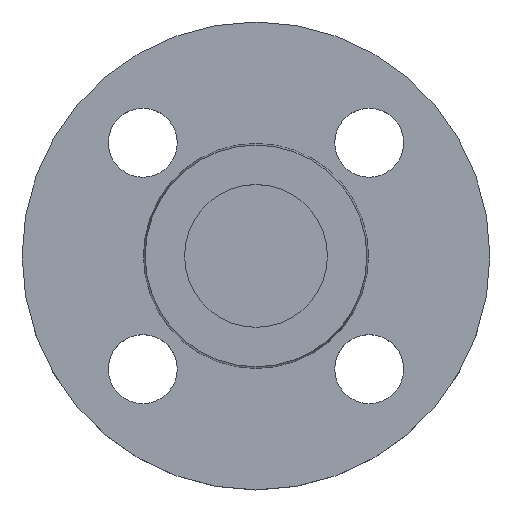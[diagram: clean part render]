
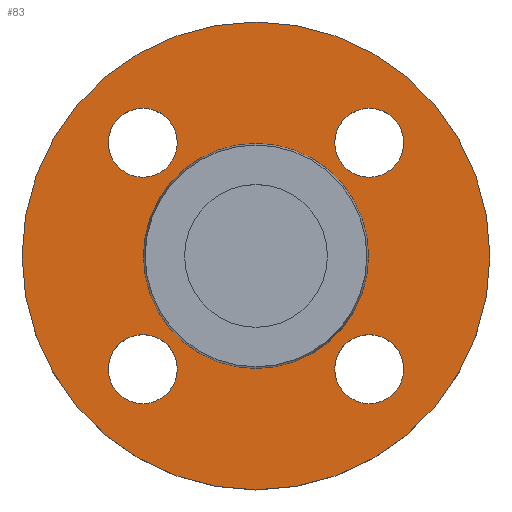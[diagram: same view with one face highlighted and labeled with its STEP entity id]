
A CAD part, top view. The second image highlights one B-rep face of the part: STEP entity #83.
In plain terms, the highlighted planar face has unit normal (0, 0, 1).
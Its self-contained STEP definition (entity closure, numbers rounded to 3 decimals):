
#11 = AXIS2_PLACEMENT_3D ( 'NONE', #355, #194, #196 ) ;
#18 = CIRCLE ( 'NONE', #11, 7. ) ;
#34 = AXIS2_PLACEMENT_3D ( 'NONE', #245, #246, #248 ) ;
#36 = CIRCLE ( 'NONE', #34, 7. ) ;
#51 = EDGE_CURVE ( 'NONE', #397, #474, #218, .T. ) ;
#53 = AXIS2_PLACEMENT_3D ( 'NONE', #126, #119, #118 ) ;
#75 = EDGE_CURVE ( 'NONE', #568, #572, #268, .T. ) ;
#83 = ADVANCED_FACE ( 'NONE', ( #619, #620, #621, #622, #624, #625 ), #626, .T. ) ;
#85 = AXIS2_PLACEMENT_3D ( 'NONE', #226, #227, #228 ) ;
#88 = CIRCLE ( 'NONE', #85, 7. ) ;
#118 = DIRECTION ( 'NONE',  ( 1., 0., 0. ) ) ;
#119 = DIRECTION ( 'NONE',  ( 0., 0., -1. ) ) ;
#121 = AXIS2_PLACEMENT_3D ( 'NONE', #323, #326, #328 ) ;
#123 = AXIS2_PLACEMENT_3D ( 'NONE', #309, #310, #311 ) ;
#126 = CARTESIAN_POINT ( 'NONE',  ( -22.981, 22.981, -2. ) ) ;
#127 = CIRCLE ( 'NONE', #123, 22.853 ) ;
#155 = AXIS2_PLACEMENT_3D ( 'NONE', #628, #629, #630 ) ;
#164 = CARTESIAN_POINT ( 'NONE',  ( -29.981, -22.981, -2. ) ) ;
#168 = CARTESIAN_POINT ( 'NONE',  ( 29.981, 22.981, -2. ) ) ;
#170 = AXIS2_PLACEMENT_3D ( 'NONE', #713, #714, #715 ) ;
#171 = CIRCLE ( 'NONE', #170, 47.5 ) ;
#174 = CIRCLE ( 'NONE', #121, 7. ) ;
#178 = CARTESIAN_POINT ( 'NONE',  ( -15.981, -22.981, -2. ) ) ;
#194 = DIRECTION ( 'NONE',  ( 0., 0., -1. ) ) ;
#195 = AXIS2_PLACEMENT_3D ( 'NONE', #616, #617, #618 ) ;
#196 = DIRECTION ( 'NONE',  ( 1., 0., 0. ) ) ;
#215 = AXIS2_PLACEMENT_3D ( 'NONE', #591, #603, #604 ) ;
#217 = EDGE_CURVE ( 'NONE', #523, #550, #312, .T. ) ;
#218 = CIRCLE ( 'NONE', #215, 47.5 ) ;
#226 = CARTESIAN_POINT ( 'NONE',  ( -22.981, 22.981, -2. ) ) ;
#227 = DIRECTION ( 'NONE',  ( 0., 0., -1. ) ) ;
#228 = DIRECTION ( 'NONE',  ( 1., 0., 0. ) ) ;
#241 = AXIS2_PLACEMENT_3D ( 'NONE', #699, #700, #701 ) ;
#244 = EDGE_CURVE ( 'NONE', #498, #508, #265, .T. ) ;
#245 = CARTESIAN_POINT ( 'NONE',  ( 22.981, -22.981, -2. ) ) ;
#246 = DIRECTION ( 'NONE',  ( 0., 0., -1. ) ) ;
#248 = DIRECTION ( 'NONE',  ( 1., 0., 0. ) ) ;
#265 = CIRCLE ( 'NONE', #241, 7. ) ;
#268 = CIRCLE ( 'NONE', #195, 22.853 ) ;
#287 = EDGE_CURVE ( 'NONE', #474, #397, #171, .T. ) ;
#298 = CARTESIAN_POINT ( 'NONE',  ( -47.5, 0., -2. ) ) ;
#306 = AXIS2_PLACEMENT_3D ( 'NONE', #674, #679, #681 ) ;
#309 = CARTESIAN_POINT ( 'NONE',  ( 0., 0., -2. ) ) ;
#310 = DIRECTION ( 'NONE',  ( 0., 0., -1. ) ) ;
#311 = DIRECTION ( 'NONE',  ( -1., 0., 0. ) ) ;
#312 = CIRCLE ( 'NONE', #306, 7. ) ;
#314 = CARTESIAN_POINT ( 'NONE',  ( -15.981, 22.981, -2. ) ) ;
#323 = CARTESIAN_POINT ( 'NONE',  ( 22.981, 22.981, -2. ) ) ;
#324 = AXIS2_PLACEMENT_3D ( 'NONE', #337, #338, #340 ) ;
#325 = CIRCLE ( 'NONE', #324, 7. ) ;
#326 = DIRECTION ( 'NONE',  ( 0., 0., -1. ) ) ;
#328 = DIRECTION ( 'NONE',  ( 1., 0., 0. ) ) ;
#333 = CIRCLE ( 'NONE', #53, 7. ) ;
#335 = CARTESIAN_POINT ( 'NONE',  ( 47.5, 0., -2. ) ) ;
#337 = CARTESIAN_POINT ( 'NONE',  ( 22.981, 22.981, -2. ) ) ;
#338 = DIRECTION ( 'NONE',  ( 0., 0., -1. ) ) ;
#340 = DIRECTION ( 'NONE',  ( 1., 0., 0. ) ) ;
#350 = CARTESIAN_POINT ( 'NONE',  ( -22.853, 0., -2. ) ) ;
#352 = EDGE_CURVE ( 'NONE', #556, #411, #88, .T. ) ;
#355 = CARTESIAN_POINT ( 'NONE',  ( -22.981, -22.981, -2. ) ) ;
#357 = CARTESIAN_POINT ( 'NONE',  ( 15.981, -22.981, -2. ) ) ;
#364 = CARTESIAN_POINT ( 'NONE',  ( -29.981, 22.981, -2. ) ) ;
#367 = CARTESIAN_POINT ( 'NONE',  ( 15.981, 22.981, -2. ) ) ;
#368 = CARTESIAN_POINT ( 'NONE',  ( 29.981, -22.981, -2. ) ) ;
#374 = CARTESIAN_POINT ( 'NONE',  ( 22.853, 0., -2. ) ) ;
#375 = EDGE_CURVE ( 'NONE', #550, #523, #36, .T. ) ;
#397 = VERTEX_POINT ( 'NONE', #298 ) ;
#408 = EDGE_CURVE ( 'NONE', #572, #568, #127, .T. ) ;
#411 = VERTEX_POINT ( 'NONE', #314 ) ;
#422 = EDGE_LOOP ( 'NONE', ( #473, #476 ) ) ;
#424 = EDGE_LOOP ( 'NONE', ( #469, #470 ) ) ;
#432 = EDGE_CURVE ( 'NONE', #559, #531, #174, .T. ) ;
#457 = EDGE_LOOP ( 'NONE', ( #477, #478 ) ) ;
#460 = EDGE_LOOP ( 'NONE', ( #466, #467 ) ) ;
#464 = ORIENTED_EDGE ( 'NONE', *, *, #217, .T. ) ;
#465 = ORIENTED_EDGE ( 'NONE', *, *, #375, .T. ) ;
#466 = ORIENTED_EDGE ( 'NONE', *, *, #576, .T. ) ;
#467 = ORIENTED_EDGE ( 'NONE', *, *, #244, .T. ) ;
#469 = ORIENTED_EDGE ( 'NONE', *, *, #627, .T. ) ;
#470 = ORIENTED_EDGE ( 'NONE', *, *, #352, .T. ) ;
#471 = ORIENTED_EDGE ( 'NONE', *, *, #475, .T. ) ;
#472 = ORIENTED_EDGE ( 'NONE', *, *, #432, .T. ) ;
#473 = ORIENTED_EDGE ( 'NONE', *, *, #408, .T. ) ;
#474 = VERTEX_POINT ( 'NONE', #335 ) ;
#475 = EDGE_CURVE ( 'NONE', #531, #559, #325, .T. ) ;
#476 = ORIENTED_EDGE ( 'NONE', *, *, #75, .T. ) ;
#477 = ORIENTED_EDGE ( 'NONE', *, *, #287, .F. ) ;
#478 = ORIENTED_EDGE ( 'NONE', *, *, #51, .F. ) ;
#498 = VERTEX_POINT ( 'NONE', #164 ) ;
#504 = EDGE_LOOP ( 'NONE', ( #471, #472 ) ) ;
#508 = VERTEX_POINT ( 'NONE', #178 ) ;
#523 = VERTEX_POINT ( 'NONE', #368 ) ;
#531 = VERTEX_POINT ( 'NONE', #168 ) ;
#550 = VERTEX_POINT ( 'NONE', #357 ) ;
#556 = VERTEX_POINT ( 'NONE', #364 ) ;
#559 = VERTEX_POINT ( 'NONE', #367 ) ;
#568 = VERTEX_POINT ( 'NONE', #374 ) ;
#569 = EDGE_LOOP ( 'NONE', ( #464, #465 ) ) ;
#572 = VERTEX_POINT ( 'NONE', #350 ) ;
#576 = EDGE_CURVE ( 'NONE', #508, #498, #18, .T. ) ;
#591 = CARTESIAN_POINT ( 'NONE',  ( 0., 0., -2. ) ) ;
#603 = DIRECTION ( 'NONE',  ( 0., 0., -1. ) ) ;
#604 = DIRECTION ( 'NONE',  ( -1., 0., 0. ) ) ;
#616 = CARTESIAN_POINT ( 'NONE',  ( 0., 0., -2. ) ) ;
#617 = DIRECTION ( 'NONE',  ( 0., 0., -1. ) ) ;
#618 = DIRECTION ( 'NONE',  ( -1., 0., 0. ) ) ;
#619 = FACE_BOUND ( 'NONE', #569, .T. ) ;
#620 = FACE_BOUND ( 'NONE', #460, .T. ) ;
#621 = FACE_BOUND ( 'NONE', #424, .T. ) ;
#622 = FACE_BOUND ( 'NONE', #504, .T. ) ;
#624 = FACE_BOUND ( 'NONE', #422, .T. ) ;
#625 = FACE_OUTER_BOUND ( 'NONE', #457, .T. ) ;
#626 = PLANE ( 'NONE',  #155 ) ;
#627 = EDGE_CURVE ( 'NONE', #411, #556, #333, .T. ) ;
#628 = CARTESIAN_POINT ( 'NONE',  ( 22.853, 0., -2. ) ) ;
#629 = DIRECTION ( 'NONE',  ( 0., 0., 1. ) ) ;
#630 = DIRECTION ( 'NONE',  ( 1., 0., 0. ) ) ;
#674 = CARTESIAN_POINT ( 'NONE',  ( 22.981, -22.981, -2. ) ) ;
#679 = DIRECTION ( 'NONE',  ( 0., 0., -1. ) ) ;
#681 = DIRECTION ( 'NONE',  ( 1., 0., 0. ) ) ;
#699 = CARTESIAN_POINT ( 'NONE',  ( -22.981, -22.981, -2. ) ) ;
#700 = DIRECTION ( 'NONE',  ( 0., 0., -1. ) ) ;
#701 = DIRECTION ( 'NONE',  ( 1., 0., 0. ) ) ;
#713 = CARTESIAN_POINT ( 'NONE',  ( 0., 0., -2. ) ) ;
#714 = DIRECTION ( 'NONE',  ( 0., 0., -1. ) ) ;
#715 = DIRECTION ( 'NONE',  ( -1., 0., 0. ) ) ;
